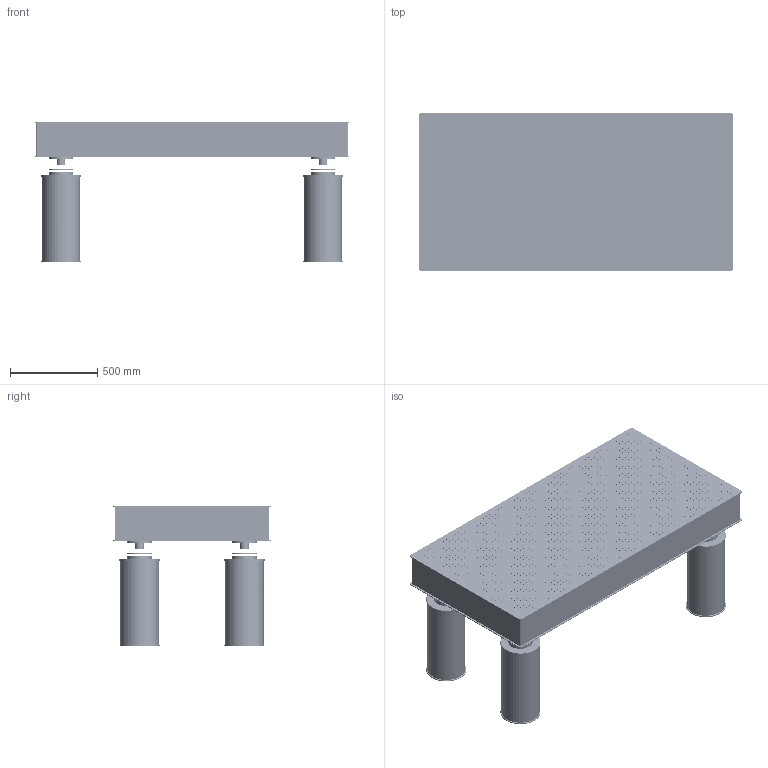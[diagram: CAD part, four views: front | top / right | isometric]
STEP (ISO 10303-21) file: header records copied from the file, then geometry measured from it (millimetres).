
FILE_DESCRIPTION (( 'STEP AP203' ), '1' );
FILE_NAME ('ZSR-P-18-09(AP203).STEP', '2024-04-08T01:51:05', ( 'Windows 蚚誧' ), ( 'Organization' ), 'SwSTEP 2.0', 'SolidWorks 2020', '' );
FILE_SCHEMA (( 'CONFIG_CONTROL_DESIGN' ));
Products named in the file (1): ZSR-P-18-09(AP203)
Bounding box: 1800 x 900 x 800 mm (x, y, z)
Surface area: 9867762.4 mm2 (no closed solid volume)
Topology: 0 solids, 58 shells, 4398 faces, 14658 edges, 10318 vertices
Faces by surface type: cylinder 4260, plane 90, cone 32, torus 16
Entity records: 176614 total; most frequent: DIRECTION 33386, CARTESIAN_POINT 29627, ORIENTED_EDGE 27472, EDGE_CURVE 14658, AXIS2_PLACEMENT_3D 14341, VERTEX_POINT 10318, CIRCLE 9942, EDGE_LOOP 9258
